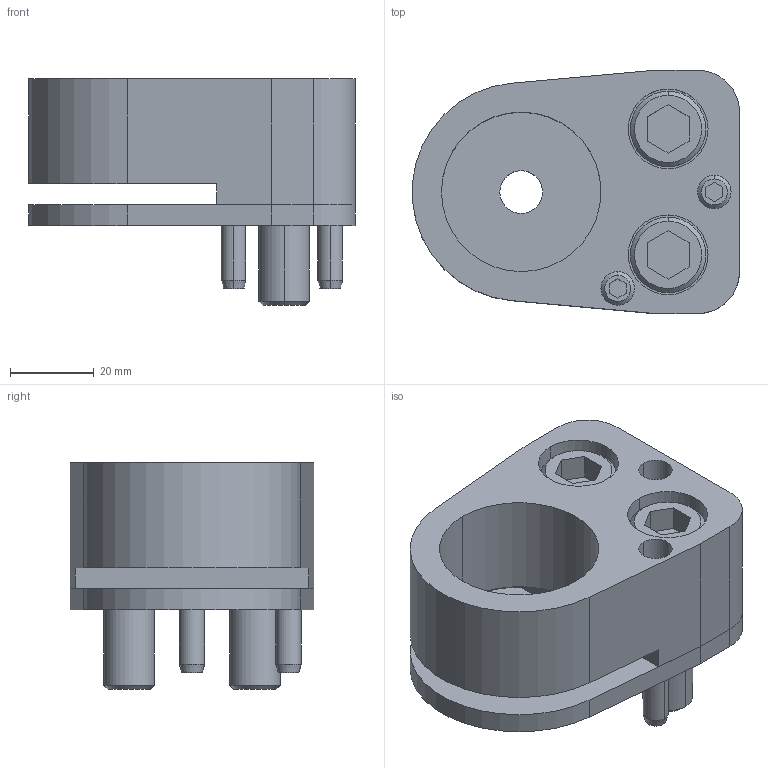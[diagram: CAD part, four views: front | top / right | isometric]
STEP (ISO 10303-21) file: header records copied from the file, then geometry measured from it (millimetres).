
FILE_DESCRIPTION(/* description */ (''),/* implementation_level */ '2;1');
FILE_NAME(/* name */ '3d_dp-fp38_02832_r00.stp',/* time_stamp */ '2011-01-10T14:15:55+09:00',/* author */ ('MISUMI'),/* organization */ (''),/* preprocessor_version */ 'ST-DEVELOPER v11',/* originating_system */ 'UGS - NX 5.0',/* authorisation */ '');
FILE_SCHEMA (('CONFIG_CONTROL_DESIGN'));
Length unit declared in the file: millimetre
Products named in the file (1): 3d_dp-fp38_02832_r00
Bounding box: 77.9 x 58 x 54 mm (x, y, z)
Volume: 98410.9 mm3; surface area: 35729.1 mm2
Topology: 8 solids, 8 shells, 154 faces, 350 edges, 225 vertices
Faces by surface type: plane 68, cylinder 60, cone 26
Entity records: 4494 total; most frequent: DIRECTION 802, CARTESIAN_POINT 781, ORIENTED_EDGE 700, EDGE_CURVE 350, AXIS2_PLACEMENT_3D 302, VERTEX_POINT 225, LINE 198, VECTOR 198
